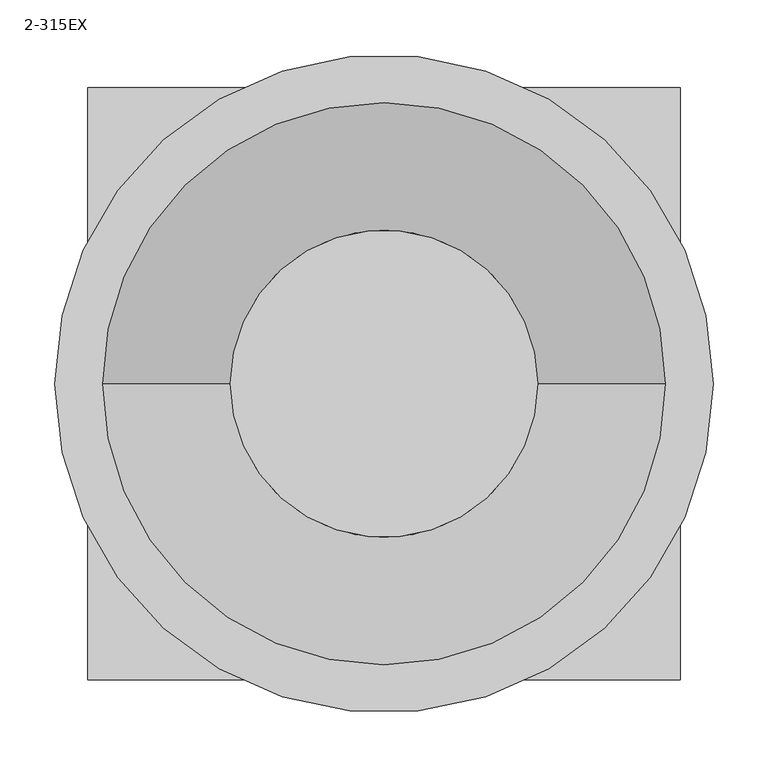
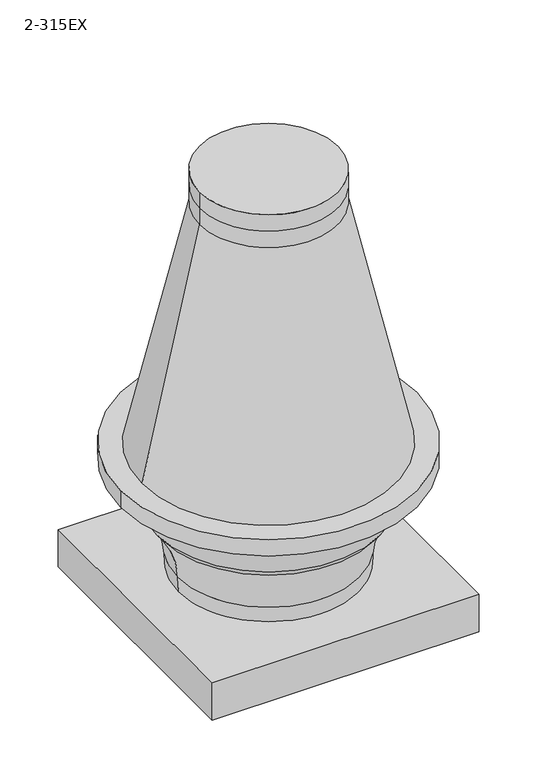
"""IFC4 building model written with IfcOpenShell, lengths in millimetres: unitary equipment geometry, VE-Wentylator-ParaForma-Harmann-VITT_EX-Wywiewny : 2-315EX."""

from ifc_helpers import new_model, si_unit, point, frame, origin, origin_2d, place, context, project, spatial, polyline, circle_curve, ellipse_curve, trimmed, segment, composite_curve, outline, extrude, faceted_brep, source, transform, mapped, element, save
from ifc_brep_helpers import plane_surface, cylinder_surface, revolved_surface, advanced_brep


def unitary_equipment_2_315ex_9ad24cb3(model_context):
    return source(origin(), model_context, "Body", "SolidModel", [
        advanced_brep(
        [(-256.4, 0.0, 247.5), (256.4, 0.0, 247.5), (182.4, 0.0, 25.0), (-182.4, 0.0, 25.0), (-225.6, 0.0, 161.4), (-216.0, 0.0, 148.1), (216.0, 0.0, 148.1), (225.6, 0.0, 161.4), (-252.3, 0.0, 224.5), (252.3, 0.0, 224.5), (-183.9, 0.0, 56.4), (183.9, 0.0, 56.4)],
        [
            (0, 1, circle_curve(frame((0.0, 0.0, 247.5), z_axis=(0.0, 0.0, 1.0), x_axis=(1.0, 0.0, 0.0)), 256.4)),
            (1, 0, circle_curve(frame((0.0, 0.0, 247.5), z_axis=(0.0, 0.0, 1.0), x_axis=(1.0, 0.0, 0.0)), 256.4)),
            (2, 3, circle_curve(frame((0.0, 0.0, 25.0), z_axis=(0.0, 0.0, -1.0), x_axis=(1.0, 0.0, 0.0)), 182.4)),
            (3, 2, circle_curve(frame((0.0, 0.0, 25.0), z_axis=(0.0, 0.0, -1.0), x_axis=(1.0, 0.0, 0.0)), 182.4)),
            (4, 5),
            (5, 6, circle_curve(frame((0.0, 0.0, 148.1), z_axis=(0.0, 0.0, 1.0), x_axis=(1.0, 0.0, 0.0)), 216.0)),
            (6, 7),
            (7, 4, circle_curve(frame((0.0, 0.0, 161.4), z_axis=(0.0, 0.0, -1.0), x_axis=(1.0, 0.0, 0.0)), 225.6)),
            (4, 7, circle_curve(frame((0.0, 0.0, 161.4), z_axis=(0.0, 0.0, -1.0), x_axis=(1.0, 0.0, 0.0)), 225.6)),
            (6, 5, circle_curve(frame((0.0, 0.0, 148.1), z_axis=(0.0, 0.0, 1.0), x_axis=(1.0, 0.0, 0.0)), 216.0)),
            (0, 8),
            (8, 9, circle_curve(frame((0.0, 0.0, 224.5), z_axis=(0.0, 0.0, 1.0), x_axis=(1.0, 0.0, 0.0)), 252.3)),
            (9, 1),
            (9, 8, circle_curve(frame((0.0, 0.0, 224.5), z_axis=(0.0, 0.0, 1.0), x_axis=(1.0, 0.0, 0.0)), 252.3)),
            (10, 3),
            (2, 11),
            (11, 10, circle_curve(frame((0.0, 0.0, 56.4), z_axis=(0.0, 0.0, -1.0), x_axis=(1.0, 0.0, 0.0)), 183.9)),
            (10, 11, circle_curve(frame((0.0, 0.0, 56.4), z_axis=(0.0, 0.0, -1.0), x_axis=(1.0, 0.0, 0.0)), 183.9)),
            (5, 10, circle_curve(frame((-354.4488961, 0.0, 48.1669622), z_axis=(0.0, 1.0, 0.0), x_axis=(1.0, 0.0, 0.0)), 170.7475003)),
            (11, 6, circle_curve(frame((354.4488961, 0.0, 48.1669622), z_axis=(0.0, 1.0, 0.0), x_axis=(-1.0, 0.0, 0.0)), 170.7475003)),
            (7, 9, circle_curve(frame((101.0501297, 0.0, 251.3006583), z_axis=(0.0, -1.0, 0.0), x_axis=(-1.0, 0.0, 0.0)), 153.6059848)),
            (8, 4, circle_curve(frame((-101.0501297, 0.0, 251.3006583), z_axis=(0.0, -1.0, 0.0), x_axis=(1.0, 0.0, 0.0)), 153.6059848)),
        ],
        [
            plane_surface(frame((0.0, 0.0, 247.5), z_axis=(0.0, 0.0, 1.0), x_axis=(0.0, -1.0, 0.0))),
            plane_surface(frame((0.0, 0.0, 25.0), z_axis=(0.0, 0.0, -1.0), x_axis=(0.0, -1.0, 0.0))),
            revolved_surface(polyline([(225.6, 0.0, 161.4), (216.0, 0.0, 148.1)]), (0.0, 0.0, 25.0), (0.0, 0.0, -1.0)),
            revolved_surface(polyline([(256.4, 0.0, 247.5), (252.3, 0.0, 224.5)]), (0.0, 0.0, 25.0), (0.0, 0.0, -1.0)),
            revolved_surface(polyline([(183.9, 0.0, 56.4), (182.4, 0.0, 25.0)]), (0.0, 0.0, 25.0), (0.0, 0.0, -1.0)),
            revolved_surface(trimmed(ellipse_curve(frame((354.4488961, 0.0, 48.1669622), z_axis=(0.0, -1.0, 0.0), x_axis=(-1.0, 0.0, 0.0)), 170.7475003, 170.7475003), [point((216.0, 0.0, 148.1))], [point((183.9, 0.0, 56.4))], True, "CARTESIAN"), (0.0, 0.0, 25.0), (0.0, 0.0, -1.0)),
            revolved_surface(trimmed(ellipse_curve(frame((101.0501297, 0.0, 251.3006583), z_axis=(0.0, 1.0, 0.0), x_axis=(-1.0, 0.0, 0.0)), 153.6059848, 153.6059848), [point((252.3, 0.0, 224.5))], [point((225.6, 0.0, 161.4))], True, "CARTESIAN"), (0.0, 0.0, 25.0), (0.0, 0.0, -1.0)),
        ],
        [
            (0, [[1, 2]]),
            (1, [[3, 4]]),
            (2, [[5, 6, 7, 8]]),
            (2, [[-5, 9, -7, 10]]),
            (3, [[11, 12, 13, -1]]),
            (3, [[-11, -2, -13, 14]]),
            (4, [[15, -3, 16, 17]]),
            (4, [[-15, 18, -16, -4]]),
            (5, [[-6, 19, -17, 20]]),
            (5, [[-10, -20, -18, -19]]),
            (6, [[-8, 21, -12, 22]]),
            (6, [[-9, -22, -14, -21]]),
        ],
    ),
        advanced_brep(
        [(-256.25, 0.0, 282.5), (256.25, 0.0, 282.5), (140.0, 0.0, 795.0), (-140.0, 0.0, 795.0), (-140.0, 0.0, 830.0), (140.0, 0.0, 830.0), (-140.0, 0.0, 865.0), (140.0, 0.0, 865.0)],
        [
            (0, 1, circle_curve(frame((0.0, 0.0, 282.5), z_axis=(0.0, 0.0, -1.0), x_axis=(1.0, 0.0, 0.0)), 256.25)),
            (1, 0, circle_curve(frame((0.0, 0.0, 282.5), z_axis=(0.0, 0.0, -1.0), x_axis=(-1.0, 0.0, 0.0)), 256.25)),
            (1, 2),
            (2, 3, circle_curve(frame((0.0, 0.0, 795.0), z_axis=(0.0, 0.0, -1.0), x_axis=(-1.0, 0.0, 0.0)), 140.0)),
            (3, 0),
            (3, 2, circle_curve(frame((0.0, 0.0, 795.0), z_axis=(0.0, 0.0, -1.0), x_axis=(1.0, 0.0, 0.0)), 140.0)),
            (3, 4),
            (4, 5, circle_curve(frame((0.0, 0.0, 830.0), z_axis=(0.0, 0.0, -1.0), x_axis=(1.0, 0.0, 0.0)), 140.0)),
            (5, 2),
            (5, 4, circle_curve(frame((0.0, 0.0, 830.0), z_axis=(0.0, 0.0, -1.0), x_axis=(1.0, 0.0, 0.0)), 140.0)),
            (6, 7, circle_curve(frame((0.0, 0.0, 865.0), z_axis=(0.0, 0.0, 1.0), x_axis=(1.0, 0.0, 0.0)), 140.0)),
            (7, 6, circle_curve(frame((0.0, 0.0, 865.0), z_axis=(0.0, 0.0, 1.0), x_axis=(1.0, 0.0, 0.0)), 140.0)),
            (7, 5),
            (4, 6),
        ],
        [
            plane_surface(frame((0.0, 0.0, 282.5), z_axis=(0.0, 0.0, -1.0), x_axis=(0.0, -1.0, 0.0))),
            revolved_surface(polyline([(-140.00000000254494, 0.0, 795.0), (-256.25, 0.0, 282.5)]), (0.0, 0.0, 1412.2043011), (0.0, 0.0, -1.0)),
            revolved_surface(polyline([(140.00000000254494, 0.0, 795.0), (256.25, 0.0, 282.5)]), (0.0, 0.0, 1412.2043011), (0.0, 0.0, -1.0)),
            cylinder_surface(frame((0.0, 0.0, 795.0), z_axis=(0.0, 0.0, -1.0), x_axis=(1.0, 0.0, 0.0)), 140.0),
            plane_surface(frame((0.0, 0.0, 865.0), z_axis=(0.0, 0.0, 1.0), x_axis=(0.0, 1.0, 0.0))),
        ],
        [
            (0, [[1, 2]]),
            (1, [[-2, 3, 4, 5]]),
            (2, [[-1, -5, 6, -3]]),
            (3, [[7, 8, 9, -6]]),
            (3, [[-7, -4, -9, 10]]),
            (4, [[11, 12]]),
            (3, [[-12, 13, -8, 14]]),
            (3, [[-11, -14, -10, -13]]),
        ],
    ),
        faceted_brep([(245.0, -245.0, -55.0), (245.0, -245.0, 0.0), (245.0, 245.0, 0.0), (245.0, 245.0, -55.0), (270.0, -270.0, 25.0), (270.0, -270.0, -55.0), (270.0, 270.0, -55.0), (270.0, 270.0, 25.0), (-245.0, 245.0, 0.0), (-245.0, 245.0, -55.0), (-270.0, 270.0, -55.0), (-270.0, 270.0, 25.0), (-245.0, -245.0, 0.0), (-245.0, -245.0, -55.0), (-270.0, -270.0, -55.0), (-270.0, -270.0, 25.0)], [[[0, 1, 2, 3]], [[4, 5, 6, 7]], [[3, 2, 8, 9]], [[7, 6, 10, 11]], [[9, 8, 12, 13]], [[11, 10, 14, 15]], [[7, 11, 15, 4]], [[1, 12, 8, 2]], [[13, 12, 1, 0]], [[5, 14, 10, 6], [3, 9, 13, 0]], [[15, 14, 5, 4]]]),
        extrude(outline(composite_curve([segment(trimmed(circle_curve(origin_2d(), 300.0), [point((-300.0, 0.0))], [point((300.0, 0.0))], False, "CARTESIAN"), True, "CONTINUOUS"), segment(trimmed(circle_curve(origin_2d(), 300.0), [point((300.0, 0.0))], [point((-300.0, 0.0))], False, "CARTESIAN"), True, "CONTINUOUS")], self_intersect=False)), frame((0.0, 0.0, 247.5), z_axis=(0.0, 0.0, 1.0), x_axis=(1.0, 0.0, 0.0)), (0.0, 0.0, 1.0), 35.0),
    ])


if __name__ == "__main__":
    model = new_model("IFC4")
    model_context = context("Model", 3, world=origin())
    ifc_project = project(units=[si_unit("LENGTHUNIT", "METRE", prefix="MILLI")], contexts=[model_context])
    site = spatial("IfcSite", under=ifc_project)
    building = spatial("IfcBuilding", under=site)
    placement = place(None, origin())
    unitary_equipment_2_315ex_shape = unitary_equipment_2_315ex_9ad24cb3(model_context)
    element("IfcUnitaryEquipment", 1, ObjectType="VE-Wentylator-ParaForma-Harmann-VITT_EX-Wywiewny : 2-315EX", at=placement, inside=building, context=model_context, shape_type="MappedRepresentation", body=[
        mapped(unitary_equipment_2_315ex_shape, transform((0.0, 0.0, 0.0), x_axis=(1.0, 0.0, 0.0), y_axis=(0.0, 1.0, 0.0), z_axis=(0.0, 0.0, 1.0))),
    ])
    save(model, "model.ifc")
